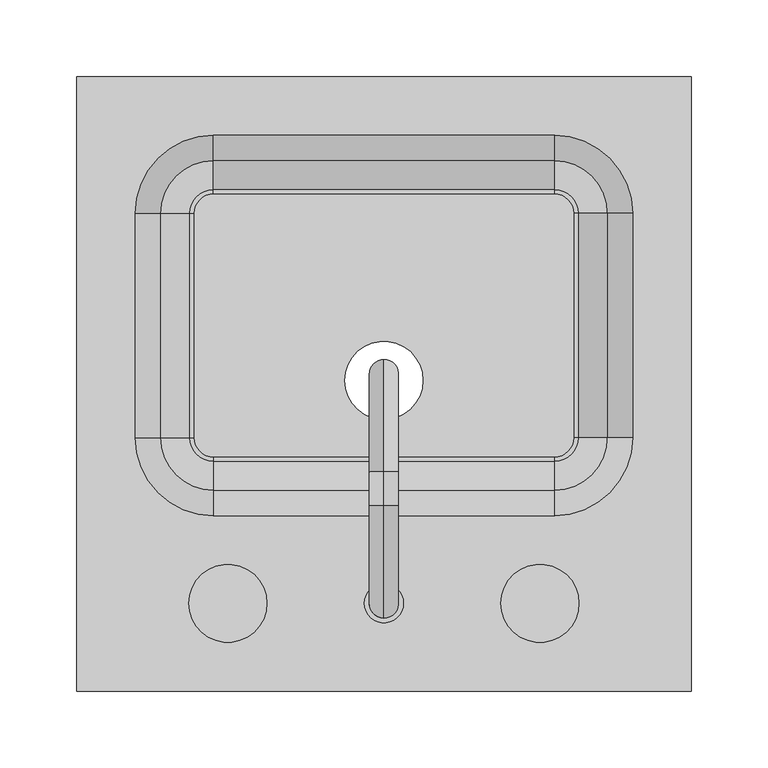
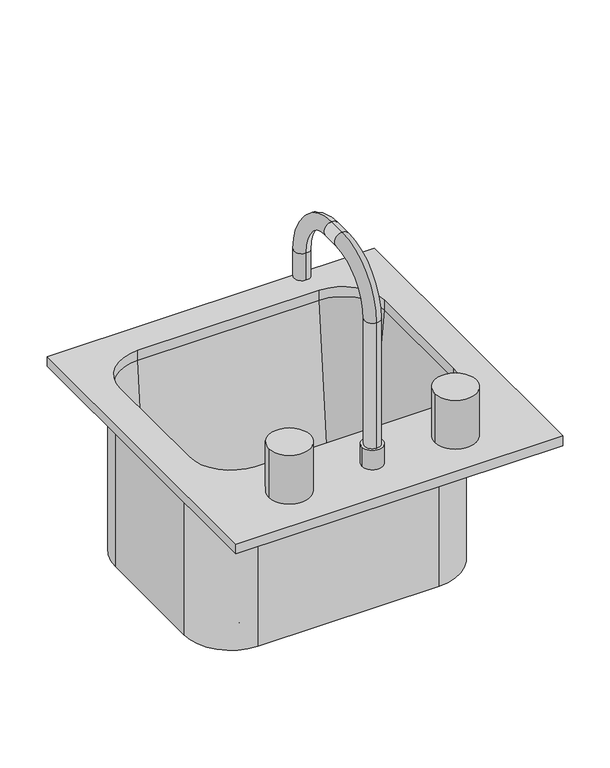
"""IFC4 building model written with IfcOpenShell, lengths in millimetres: flow terminal geometry, RF_Pias : Pia da Bancada."""

import ifcopenshell
import ifcopenshell.guid

model = None  # the IFC model being written
_history = None  # IfcOwnerHistory: only IFC2X3 demands one
_inside = {}  # id of a spatial element -> (the spatial element, [elements in it])
_under = {}  # id of a project, library or spatial element -> (it, [spatial elements below it])
_declared = {}  # id of a project -> (the project, [libraries it declares])
_typed = {}  # id of a type object -> (the type object, [elements of that type])
_made_of = {}  # id of a material, layer set ... -> (it, [elements and type objects made of it])


def new_model(schema):
    """Start an empty IFC model of exactly this schema.

    Asked for "IFC4X3", IfcOpenShell would pick the latest addendum, in which some entities
    have other attributes; the version numbers below select the first issue.
    IFC2X3 requires an IfcOwnerHistory on every rooted entity: one is made here for all.
    """
    global model, _history
    if schema == "IFC4X3":
        model = ifcopenshell.file(schema_version=(4, 3, 0, 0))
    else:
        model = ifcopenshell.file(schema=schema)
    _inside.clear()
    _under.clear()
    _declared.clear()
    _typed.clear()
    _made_of.clear()
    _history = None
    if model.schema == "IFC2X3":
        org = make("IfcOrganization", Name="unknown")
        user = make(
            "IfcPersonAndOrganization",
            ThePerson=make("IfcPerson", FamilyName="unknown"),
            TheOrganization=org,
        )
        app = make(
            "IfcApplication",
            ApplicationDeveloper=org,
            Version="unknown",
            ApplicationFullName="unknown",
            ApplicationIdentifier="unknown",
        )
        _history = make(
            "IfcOwnerHistory",
            OwningUser=user,
            OwningApplication=app,
            ChangeAction="ADDED",
            CreationDate=0,
        )
    return model


def make(cls, **values):
    """One entity of the class cls with the attributes given. An attribute that is None is left unset."""
    return model.create_entity(
        cls, **{name: value for name, value in values.items() if value is not None}
    )


def rooted(cls, **values):
    """An entity with a GlobalId (a new one), such as an element, a storey or a relation."""
    return make(cls, GlobalId=ifcopenshell.guid.new(), OwnerHistory=_history, **values)


def si_unit(unit_type, name, prefix=None):
    """IfcSIUnit, for example si_unit("LENGTHUNIT", "METRE", prefix="MILLI")."""
    return make("IfcSIUnit", UnitType=unit_type, Prefix=prefix, Name=name)


def assignment(units):
    """IfcUnitAssignment: the units of a project."""
    return None if units is None else make("IfcUnitAssignment", Units=units)


def point(xyz):
    """IfcCartesianPoint."""
    return None if xyz is None else make("IfcCartesianPoint", Coordinates=xyz)


def direction(xyz):
    """IfcDirection."""
    return None if xyz is None else make("IfcDirection", DirectionRatios=xyz)


def frame(location, z_axis=None, x_axis=None):
    """IfcAxis2Placement3D, a coordinate frame: its origin and axes. An axis left out is left unset."""
    return make(
        "IfcAxis2Placement3D",
        Location=point(location),
        Axis=direction(z_axis),
        RefDirection=direction(x_axis),
    )


def frame_2d(location, x_axis=None):
    """IfcAxis2Placement2D, a coordinate frame in the plane: its origin and x axis."""
    return make(
        "IfcAxis2Placement2D", Location=point(location), RefDirection=direction(x_axis)
    )


def origin():
    """The frame at (0, 0, 0) with its axes left unset."""
    return frame((0.0, 0.0, 0.0))


def place(relative_to, where):
    """IfcLocalPlacement: puts the frame where relative to a parent placement (None: the world)."""
    return make(
        "IfcLocalPlacement", PlacementRelTo=relative_to, RelativePlacement=where
    )


def context(
    kind, dimensions, precision=None, world=None, true_north=None, identifier=None
):
    """IfcGeometricRepresentationContext, for example the 3D "Model" context."""
    return make(
        "IfcGeometricRepresentationContext",
        ContextIdentifier=identifier,
        ContextType=kind,
        CoordinateSpaceDimension=dimensions,
        Precision=precision,
        WorldCoordinateSystem=world,
        TrueNorth=true_north,
    )


def project(units=None, contexts=None):
    """IfcProject with its units and contexts."""
    return rooted(
        "IfcProject",
        Name="project",
        RepresentationContexts=contexts,
        UnitsInContext=assignment(units),
    )


def spatial(cls, under=None, at=None, **own):
    """A site, building, storey or space (cls), placed at a placement, below another one or the project."""
    s = rooted(cls, ObjectPlacement=at, **own)
    if under is not None:
        _under.setdefault(under.id(), (under, []))[1].append(s)
    return s


def polyline(points):
    """IfcPolyline through the points."""
    return make("IfcPolyline", Points=[point(p) for p in points])


def circle_curve(where, radius):
    """IfcCircle in the frame where."""
    return make("IfcCircle", Position=where, Radius=radius)


def ellipse_curve(where, semi_axis1, semi_axis2):
    """IfcEllipse in the frame where."""
    return make(
        "IfcEllipse", Position=where, SemiAxis1=semi_axis1, SemiAxis2=semi_axis2
    )


def trimmed(basis, trim1, trim2, sense, master):
    """IfcTrimmedCurve: the piece of a basis curve between two trims."""
    return make(
        "IfcTrimmedCurve",
        BasisCurve=basis,
        Trim1=trim1,
        Trim2=trim2,
        SenseAgreement=sense,
        MasterRepresentation=master,
    )


def segment(curve, same_sense, transition):
    """IfcCompositeCurveSegment."""
    return make(
        "IfcCompositeCurveSegment",
        Transition=transition,
        SameSense=same_sense,
        ParentCurve=curve,
    )


def composite_curve(segments, self_intersect=None):
    """IfcCompositeCurve: segments joined end to end."""
    return make("IfcCompositeCurve", Segments=segments, SelfIntersect=self_intersect)


def outline(outer, holes=None, kind="AREA"):
    """IfcArbitraryClosedProfileDef: a profile drawn as a closed curve; with holes, ...WithVoids."""
    if holes is None:
        return make("IfcArbitraryClosedProfileDef", ProfileType=kind, OuterCurve=outer)
    return make(
        "IfcArbitraryProfileDefWithVoids",
        ProfileType=kind,
        OuterCurve=outer,
        InnerCurves=holes,
    )


def extrude(swept, where, along, depth):
    """IfcExtrudedAreaSolid: the profile swept, set in the frame where, extruded along a direction by depth."""
    return make(
        "IfcExtrudedAreaSolid",
        SweptArea=swept,
        Position=where,
        ExtrudedDirection=direction(along),
        Depth=depth,
    )


def shape(context_of_items, identifier, shape_type, items):
    """IfcShapeRepresentation: the items that make up one representation, for example the "Body"."""
    return make(
        "IfcShapeRepresentation",
        ContextOfItems=context_of_items,
        RepresentationIdentifier=identifier,
        RepresentationType=shape_type,
        Items=items,
    )


def source(mapping_origin, context_of_items, identifier, shape_type, items):
    """IfcRepresentationMap: a shape defined once, which mapped items show again and again."""
    return make(
        "IfcRepresentationMap",
        MappingOrigin=mapping_origin,
        MappedRepresentation=shape(context_of_items, identifier, shape_type, items),
    )


def transform(
    local_origin,
    x_axis=None,
    y_axis=None,
    z_axis=None,
    scale=None,
    scale2=None,
    scale3=None,
    uniform=True,
):
    """IfcCartesianTransformationOperator3D, or its non-uniform kind. x_axis, y_axis, z_axis: its Axis1, 2, 3."""
    if uniform:
        return make(
            "IfcCartesianTransformationOperator3D",
            Axis1=direction(x_axis),
            Axis2=direction(y_axis),
            LocalOrigin=point(local_origin),
            Scale=scale,
            Axis3=direction(z_axis),
        )
    return make(
        "IfcCartesianTransformationOperator3DnonUniform",
        Axis1=direction(x_axis),
        Axis2=direction(y_axis),
        LocalOrigin=point(local_origin),
        Scale=scale,
        Axis3=direction(z_axis),
        Scale2=scale2,
        Scale3=scale3,
    )


def mapped(mapping_source, mapping_target):
    """IfcMappedItem: shows the shape of a source again, moved by a transform."""
    return make(
        "IfcMappedItem", MappingSource=mapping_source, MappingTarget=mapping_target
    )


def made_of(thing, what):
    """Note that an element or type object is made of a material, layer set ...; save() writes the relation."""
    if what is not None:
        _made_of.setdefault(what.id(), (what, []))[1].append(thing)
    return thing


def element(
    cls,
    number,
    at=None,
    inside=None,
    cuts=None,
    type_object=None,
    material=None,
    context=None,
    identifier="Body",
    shape_type=None,
    held_by="IfcProductDefinitionShape",
    body=None,
    shapes=None,
    **own,
):
    """One element of the class cls, such as IfcWall. Its Tag is "e" and its number.

    at: its placement. inside: the storey or other place that contains it. cuts: it is an
    opening in that element (IfcRelVoidsElement). A single representation is given by context,
    identifier, shape_type and body (its items); several are given by shapes. held_by: the class
    of the entity that holds the representations. save() writes the other relations.
    """
    e = rooted(cls, Tag="e%d" % number, ObjectPlacement=at, **own)
    if body is not None:
        shapes = [shape(context, identifier, shape_type, body)]
    if shapes is not None:
        e.Representation = make(held_by, Representations=shapes)
    if inside is not None:
        _inside.setdefault(inside.id(), (inside, []))[1].append(e)
    if cuts is not None:
        rooted(
            "IfcRelVoidsElement", RelatingBuildingElement=cuts, RelatedOpeningElement=e
        )
    if type_object is not None:
        _typed.setdefault(type_object.id(), (type_object, []))[1].append(e)
    return made_of(e, material)


def aggregate(whole, parts):
    """IfcRelAggregates: a whole, such as a stair, and the parts it consists of."""
    return rooted("IfcRelAggregates", RelatingObject=whole, RelatedObjects=parts)


def save(model, path):
    """Write the relations noted so far, then the file.

    IfcRelAggregates (storeys below a building ...), IfcRelContainedInSpatialStructure (elements
    in a storey), IfcRelDefinesByType, IfcRelAssociatesMaterial and IfcRelDeclares: one each for
    every whole, place, type object, material and project.
    """
    for whole, parts in _under.values():
        aggregate(whole, parts)
    for where, things in _inside.values():
        rooted(
            "IfcRelContainedInSpatialStructure",
            RelatedElements=things,
            RelatingStructure=where,
        )
    for kind, things in _typed.values():
        rooted("IfcRelDefinesByType", RelatedObjects=things, RelatingType=kind)
    for what, things in _made_of.values():
        rooted("IfcRelAssociatesMaterial", RelatedObjects=things, RelatingMaterial=what)
    for by, libraries in _declared.values():
        rooted("IfcRelDeclares", RelatingContext=by, RelatedDefinitions=libraries)
    model.write(path)


def plane_surface(at):
    """IfcPlane: the flat surface through the origin of the frame at, square to its z axis."""
    return make("IfcPlane", Position=at)


def cylinder_surface(at, radius):
    """IfcCylindricalSurface: all points at the distance radius from the z axis of the frame at."""
    return make("IfcCylindricalSurface", Position=at, Radius=radius)


def revolved_surface(curve, axis_point, axis_direction):
    """IfcSurfaceOfRevolution: the curve turned about the line through axis_point along axis_direction."""
    return make(
        "IfcSurfaceOfRevolution",
        SweptCurve=make("IfcArbitraryOpenProfileDef", ProfileType="CURVE", Curve=curve),
        AxisPosition=make("IfcAxis1Placement", Location=point(axis_point), Axis=direction(axis_direction)),
    )


def advanced_brep(points, edges, surfaces, faces):
    """IfcAdvancedBrep: a solid bounded by faces that lie on surfaces and meet in shared edges.

    An edge is (start, end): straight between two places in points (the first is 0);
    or (start, end, curve); or (start, end, curve, False) where it runs against its curve.
    A face is (place in surfaces, loops), or (place, loops, False) where it looks against
    its surface's normal. A loop lists edges by number (the first is 1), with a minus sign
    where the edge is run from its end to its start. The first loop is the outer one.
    """
    corners = [point(p) for p in points]
    vertices = [make("IfcVertexPoint", VertexGeometry=c) for c in corners]
    made = []
    for start, end, *more in edges:
        made.append(
            make(
                "IfcEdgeCurve",
                EdgeStart=vertices[start],
                EdgeEnd=vertices[end],
                EdgeGeometry=more[0] if more else make("IfcPolyline", Points=[corners[start], corners[end]]),
                SameSense=more[1] if len(more) > 1 else True,
            )
        )
    hull = []
    for where, loops, *sense in faces:
        bounds = []
        for j, loop in enumerate(loops):
            ring = [make("IfcOrientedEdge", EdgeElement=made[abs(k) - 1], Orientation=k > 0) for k in loop]
            bounds.append(
                make(
                    "IfcFaceOuterBound" if j == 0 else "IfcFaceBound",
                    Bound=make("IfcEdgeLoop", EdgeList=ring),
                    Orientation=True,
                )
            )
        hull.append(make("IfcAdvancedFace", Bounds=bounds, FaceSurface=surfaces[where], SameSense=sense[0] if sense else True))
    return make("IfcAdvancedBrep", Outer=make("IfcClosedShell", CfsFaces=hull))


def flow_terminal_c6e042c4(model_context):
    return source(origin(), model_context, "Body", "SolidModel", [
        advanced_brep(
        [(215.6892406, -202.3454011, 927.1), (215.6892406, 197.6545989, 927.1), (-184.3107594, 197.6545989, 927.1), (-184.3107594, -202.3454011, 927.1), (126.7892406, -88.0454011, 927.1), (-95.4107594, -88.0454011, 927.1), (-146.2107594, -37.2454011, 927.1), (-146.2107594, 108.7545989, 927.1), (-95.4107594, 159.5545989, 927.1), (126.7892406, 159.5545989, 927.1), (177.5892406, 108.7545989, 927.1), (177.5892406, -37.2454011, 927.1), (215.6892406, -202.3454011, 914.4), (-184.3107594, -202.3454011, 914.4), (-184.3107594, 197.6545989, 914.4), (215.6892406, 197.6545989, 914.4), (183.9392406, -37.2454011, 914.4), (183.9392406, 108.7545989, 914.4), (126.7892406, 165.9045989, 914.4), (-95.4107594, 165.9045989, 914.4), (-152.5607594, 108.7545989, 914.4), (-152.5607594, -37.2454011, 914.4), (-95.4107594, -94.3954011, 914.4), (126.7892406, -94.3954011, 914.4), (177.5892406, -37.2454011, 914.4), (126.7892406, -88.0454011, 914.4), (177.5892406, 108.7545989, 914.4), (126.7892406, 159.5545989, 914.4), (-95.4107594, 159.5545989, 914.4), (-146.2107594, 108.7545989, 914.4), (-146.2107594, -37.2454011, 914.4), (-95.4107594, -88.0454011, 914.4), (183.9392406, -37.2454011, 698.5), (126.7892406, -94.3954011, 698.5), (126.7892406, -49.9454011, 698.5), (139.4892406, -37.2454011, 698.5), (126.7892406, -49.9454011, 708.025), (139.4892406, -37.2454011, 708.025), (126.7892406, -52.5338193, 708.025), (142.0776588, -37.2454011, 708.025), (126.7892406, -71.5113283, 725.4146831), (161.0551678, -37.2454011, 725.4146831), (183.9392406, 108.7545989, 698.5), (139.4892406, 108.7545989, 698.5), (139.4892406, 108.7545989, 708.025), (142.0776588, 108.7545989, 708.025), (161.0551678, 108.7545989, 725.4146831), (126.7892406, 165.9045989, 698.5), (126.7892406, 121.4545989, 698.5), (126.7892406, 121.4545989, 708.025), (126.7892406, 124.0430171, 708.025), (126.7892406, 143.0205261, 725.4146831), (-95.4107594, 165.9045989, 698.5), (-95.4107594, 121.4545989, 698.5), (-95.4107594, 121.4545989, 708.025), (-95.4107594, 124.0430171, 708.025), (-95.4107594, 143.0205261, 725.4146831), (-152.5607594, 108.7545989, 698.5), (-108.1107594, 108.7545989, 698.5), (-108.1107594, 108.7545989, 708.025), (-110.6991776, 108.7545989, 708.025), (-129.6766866, 108.7545989, 725.4146831), (-152.5607594, -37.2454011, 698.5), (-108.1107594, -37.2454011, 698.5), (-108.1107594, -37.2454011, 708.025), (-110.6991776, -37.2454011, 708.025), (-129.6766866, -37.2454011, 725.4146831), (-95.4107594, -94.3954011, 698.5), (-95.4107594, -49.9454011, 698.5), (-95.4107594, -49.9454011, 708.025), (-95.4107594, -52.5338193, 708.025), (-95.4107594, -71.5113283, 725.4146831)],
        [
            (0, 1),
            (1, 2),
            (2, 3),
            (3, 0),
            (4, 5),
            (5, 6, circle_curve(frame((-95.4107594, -37.2454011, 927.1), z_axis=(0.0, 0.0, -1.0), x_axis=(1.0, 0.0, 0.0)), 50.8)),
            (6, 7),
            (7, 8, circle_curve(frame((-95.4107594, 108.7545989, 927.1), z_axis=(0.0, 0.0, -1.0), x_axis=(1.0, 0.0, 0.0)), 50.8)),
            (8, 9),
            (9, 10, circle_curve(frame((126.7892406, 108.7545989, 927.1), z_axis=(0.0, 0.0, -1.0), x_axis=(1.0, 0.0, 0.0)), 50.8)),
            (10, 11),
            (11, 4, circle_curve(frame((126.7892406, -37.2454011, 927.1), z_axis=(0.0, 0.0, -1.0), x_axis=(1.0, 0.0, 0.0)), 50.8)),
            (12, 13),
            (13, 14),
            (14, 15),
            (15, 12),
            (16, 17),
            (17, 18, circle_curve(frame((126.7892406, 108.7545989, 914.4), z_axis=(0.0, 0.0, 1.0), x_axis=(1.0, 0.0, 0.0)), 57.15)),
            (18, 19),
            (19, 20, circle_curve(frame((-95.4107594, 108.7545989, 914.4), z_axis=(0.0, 0.0, 1.0), x_axis=(0.0, 1.0, 0.0)), 57.15)),
            (20, 21),
            (21, 22, circle_curve(frame((-95.4107594, -37.2454011, 914.4), z_axis=(0.0, 0.0, 1.0), x_axis=(-1.0, 0.0, 0.0)), 57.15)),
            (22, 23),
            (23, 16, circle_curve(frame((126.7892406, -37.2454011, 914.4), z_axis=(0.0, 0.0, 1.0), x_axis=(0.0, -1.0, 0.0)), 57.15)),
            (3, 13),
            (12, 0),
            (2, 14),
            (1, 15),
            (11, 24),
            (24, 25, circle_curve(frame((126.7892406, -37.2454011, 914.4), z_axis=(0.0, 0.0, -1.0), x_axis=(1.0, 0.0, 0.0)), 50.8)),
            (25, 4),
            (10, 26),
            (26, 24),
            (9, 27),
            (27, 26, circle_curve(frame((126.7892406, 108.7545989, 914.4), z_axis=(0.0, 0.0, -1.0), x_axis=(1.0, 0.0, 0.0)), 50.8)),
            (8, 28),
            (28, 27),
            (7, 29),
            (29, 28, circle_curve(frame((-95.4107594, 108.7545989, 914.4), z_axis=(0.0, 0.0, -1.0), x_axis=(1.0, 0.0, 0.0)), 50.8)),
            (6, 30),
            (30, 29),
            (5, 31),
            (31, 30, circle_curve(frame((-95.4107594, -37.2454011, 914.4), z_axis=(0.0, 0.0, -1.0), x_axis=(1.0, 0.0, 0.0)), 50.8)),
            (25, 31),
            (32, 16),
            (23, 33),
            (33, 32, circle_curve(frame((126.7892406, -37.2454011, 698.5), z_axis=(0.0, 0.0, 1.0), x_axis=(0.0, -1.0, 0.0)), 57.15)),
            (33, 34),
            (34, 35, circle_curve(frame((126.7892406, -37.2454011, 698.5), z_axis=(0.0, 0.0, 1.0), x_axis=(0.0, -1.0, 0.0)), 12.7)),
            (35, 32),
            (34, 36),
            (36, 37, circle_curve(frame((126.7892406, -37.2454011, 708.025), z_axis=(0.0, 0.0, 1.0), x_axis=(0.0, -1.0, 0.0)), 12.7)),
            (37, 35),
            (36, 38),
            (38, 39, circle_curve(frame((126.7892406, -37.2454011, 708.025), z_axis=(0.0, 0.0, 1.0), x_axis=(0.0, -1.0, 0.0)), 15.2884182)),
            (39, 37),
            (38, 40, circle_curve(frame((126.7892406, -52.5338193, 727.075), z_axis=(-1.0, 0.0, 0.0), x_axis=(0.0, -1.0, 0.0)), 19.05)),
            (40, 41, circle_curve(frame((126.7892406, -37.2454011, 725.4146831), z_axis=(0.0, 0.0, 1.0), x_axis=(0.0, -1.0, 0.0)), 34.2659272)),
            (41, 39, circle_curve(frame((142.0776588, -37.2454011, 727.075), z_axis=(0.0, 1.0, 0.0), x_axis=(1.0, 0.0, 0.0)), 19.05)),
            (40, 25),
            (24, 41),
            (32, 42),
            (42, 17),
            (35, 43),
            (43, 42),
            (37, 44),
            (44, 43),
            (39, 45),
            (45, 44),
            (41, 46),
            (46, 45, circle_curve(frame((142.0776588, 108.7545989, 727.075), z_axis=(0.0, 1.0, 0.0), x_axis=(1.0, 0.0, 0.0)), 19.05)),
            (26, 46),
            (42, 47, circle_curve(frame((126.7892406, 108.7545989, 698.5), z_axis=(0.0, 0.0, 1.0), x_axis=(1.0, 0.0, 0.0)), 57.15)),
            (47, 18),
            (43, 48, circle_curve(frame((126.7892406, 108.7545989, 698.5), z_axis=(0.0, 0.0, 1.0), x_axis=(1.0, 0.0, 0.0)), 12.7)),
            (48, 47),
            (44, 49, circle_curve(frame((126.7892406, 108.7545989, 708.025), z_axis=(0.0, 0.0, 1.0), x_axis=(1.0, 0.0, 0.0)), 12.7)),
            (49, 48),
            (45, 50, circle_curve(frame((126.7892406, 108.7545989, 708.025), z_axis=(0.0, 0.0, 1.0), x_axis=(1.0, 0.0, 0.0)), 15.2884182)),
            (50, 49),
            (46, 51, circle_curve(frame((126.7892406, 108.7545989, 725.4146831), z_axis=(0.0, 0.0, 1.0), x_axis=(1.0, 0.0, 0.0)), 34.2659272)),
            (51, 50, circle_curve(frame((126.7892406, 124.0430171, 727.075), z_axis=(-1.0, 0.0, 0.0), x_axis=(0.0, 1.0, 0.0)), 19.05)),
            (27, 51),
            (47, 52),
            (52, 19),
            (48, 53),
            (53, 52),
            (49, 54),
            (54, 53),
            (50, 55),
            (55, 54),
            (51, 56),
            (56, 55, circle_curve(frame((-95.4107594, 124.0430171, 727.075), z_axis=(-1.0, 0.0, 0.0), x_axis=(0.0, 1.0, 0.0)), 19.05)),
            (28, 56),
            (52, 57, circle_curve(frame((-95.4107594, 108.7545989, 698.5), z_axis=(0.0, 0.0, 1.0), x_axis=(0.0, 1.0, 0.0)), 57.15)),
            (57, 20),
            (53, 58, circle_curve(frame((-95.4107594, 108.7545989, 698.5), z_axis=(0.0, 0.0, 1.0), x_axis=(0.0, 1.0, 0.0)), 12.7)),
            (58, 57),
            (54, 59, circle_curve(frame((-95.4107594, 108.7545989, 708.025), z_axis=(0.0, 0.0, 1.0), x_axis=(0.0, 1.0, 0.0)), 12.7)),
            (59, 58),
            (55, 60, circle_curve(frame((-95.4107594, 108.7545989, 708.025), z_axis=(0.0, 0.0, 1.0), x_axis=(0.0, 1.0, 0.0)), 15.2884182)),
            (60, 59),
            (56, 61, circle_curve(frame((-95.4107594, 108.7545989, 725.4146831), z_axis=(0.0, 0.0, 1.0), x_axis=(0.0, 1.0, 0.0)), 34.2659272)),
            (61, 60, circle_curve(frame((-110.6991776, 108.7545989, 727.075), z_axis=(0.0, -1.0, 0.0), x_axis=(-1.0, 0.0, 0.0)), 19.05)),
            (29, 61),
            (57, 62),
            (62, 21),
            (58, 63),
            (63, 62),
            (59, 64),
            (64, 63),
            (60, 65),
            (65, 64),
            (61, 66),
            (66, 65, circle_curve(frame((-110.6991776, -37.2454011, 727.075), z_axis=(0.0, -1.0, 0.0), x_axis=(-1.0, 0.0, 0.0)), 19.05)),
            (30, 66),
            (62, 67, circle_curve(frame((-95.4107594, -37.2454011, 698.5), z_axis=(0.0, 0.0, 1.0), x_axis=(-1.0, 0.0, 0.0)), 57.15)),
            (67, 22),
            (63, 68, circle_curve(frame((-95.4107594, -37.2454011, 698.5), z_axis=(0.0, 0.0, 1.0), x_axis=(-1.0, 0.0, 0.0)), 12.7)),
            (68, 67),
            (64, 69, circle_curve(frame((-95.4107594, -37.2454011, 708.025), z_axis=(0.0, 0.0, 1.0), x_axis=(-1.0, 0.0, 0.0)), 12.7)),
            (69, 68),
            (65, 70, circle_curve(frame((-95.4107594, -37.2454011, 708.025), z_axis=(0.0, 0.0, 1.0), x_axis=(-1.0, 0.0, 0.0)), 15.2884182)),
            (70, 69),
            (66, 71, circle_curve(frame((-95.4107594, -37.2454011, 725.4146831), z_axis=(0.0, 0.0, 1.0), x_axis=(-1.0, 0.0, 0.0)), 34.2659272)),
            (71, 70, circle_curve(frame((-95.4107594, -52.5338193, 727.075), z_axis=(1.0, 0.0, 0.0), x_axis=(0.0, -1.0, 0.0)), 19.05)),
            (31, 71),
            (67, 33),
            (68, 34),
            (69, 36),
            (70, 38),
            (71, 40),
        ],
        [
            plane_surface(frame((-184.3107594, -202.3454011, 927.1), z_axis=(0.0, 0.0, 1.0), x_axis=(-1.0, 0.0, 0.0))),
            plane_surface(frame((-184.3107594, -202.3454011, 914.4), z_axis=(0.0, 0.0, -1.0), x_axis=(1.0, 0.0, 0.0))),
            plane_surface(frame((215.6892406, -202.3454011, 927.1), z_axis=(0.0, -1.0, 0.0), x_axis=(0.0, 0.0, -1.0))),
            plane_surface(frame((-184.3107594, -202.3454011, 927.1), z_axis=(-1.0, 0.0, 0.0), x_axis=(0.0, 0.0, -1.0))),
            plane_surface(frame((-184.3107594, 197.6545989, 927.1), z_axis=(0.0, 1.0, 0.0), x_axis=(0.0, 0.0, -1.0))),
            plane_surface(frame((215.6892406, 197.6545989, 927.1), z_axis=(1.0, 0.0, 0.0), x_axis=(0.0, 0.0, -1.0))),
            revolved_surface(polyline([(177.58924059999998, -37.2454011, 914.4), (177.58924059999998, -37.2454011, 927.1)]), (126.7892406, -37.2454011, 0.0), (0.0, 0.0, -1.0)),
            plane_surface(frame((177.5892406, -37.2454011, 927.1), z_axis=(-1.0, 0.0, 0.0), x_axis=(0.0, 0.0, -1.0))),
            revolved_surface(polyline([(177.58924059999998, 108.7545989, 914.4), (177.58924059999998, 108.7545989, 927.1)]), (126.7892406, 108.7545989, 0.0), (0.0, 0.0, -1.0)),
            plane_surface(frame((126.7892406, 159.5545989, 927.1), z_axis=(0.0, -1.0, 0.0), x_axis=(0.0, 0.0, -1.0))),
            revolved_surface(polyline([(-44.610759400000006, 108.7545989, 914.4), (-44.610759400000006, 108.7545989, 927.1)]), (-95.4107594, 108.7545989, 0.0), (0.0, 0.0, -1.0)),
            plane_surface(frame((-146.2107594, 108.7545989, 927.1), z_axis=(1.0, 0.0, 0.0), x_axis=(0.0, 0.0, -1.0))),
            revolved_surface(polyline([(-44.610759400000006, -37.2454011, 914.4), (-44.610759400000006, -37.2454011, 927.1)]), (-95.4107594, -37.2454011, 0.0), (0.0, 0.0, -1.0)),
            plane_surface(frame((-95.4107594, -88.0454011, 927.1), z_axis=(0.0, 1.0, 0.0), x_axis=(0.0, 0.0, -1.0))),
            cylinder_surface(frame((126.7892406, -37.2454011, 0.0), z_axis=(0.0, 0.0, -1.0), x_axis=(0.0, -1.0, 0.0)), 57.15),
            plane_surface(frame((126.7892406, -37.2454011, 698.5), z_axis=(0.0, 0.0, -1.0), x_axis=(0.0, -1.0, 0.0))),
            revolved_surface(polyline([(126.7892406, -49.9454011, 698.5), (126.7892406, -49.9454011, 708.025)]), (126.7892406, -37.2454011, 0.0), (0.0, 0.0, -1.0)),
            plane_surface(frame((126.7892406, -37.2454011, 708.025), z_axis=(0.0, 0.0, 1.0), x_axis=(0.0, -1.0, 0.0))),
            revolved_surface(trimmed(ellipse_curve(frame((126.7892406, -52.5338193, 727.075), z_axis=(-1.0, 0.0, 0.0), x_axis=(0.0, -1.0, 0.0)), 19.05, 19.05), [point((126.7892406, -52.5338193, 708.025))], [point((126.7892406, -71.5113283, 725.4146831))], True, "CARTESIAN"), (126.7892406, -37.2454011, 0.0), (0.0, 0.0, -1.0)),
            revolved_surface(polyline([(126.7892406, -71.5113283, 725.4146831), (126.7892406, -88.0454011, 914.4)]), (126.7892406, -37.2454011, 0.0), (0.0, 0.0, -1.0)),
            plane_surface(frame((183.9392406, -37.2454011, 914.4), z_axis=(1.0, 0.0, 0.0), x_axis=(0.0, 1.0, 0.0))),
            plane_surface(frame((183.9392406, -37.2454011, 698.5), z_axis=(0.0, 0.0, -1.0), x_axis=(0.0, 1.0, 0.0))),
            plane_surface(frame((139.4892406, -37.2454011, 698.5), z_axis=(-1.0, 0.0, 0.0), x_axis=(0.0, 1.0, 0.0))),
            plane_surface(frame((139.4892406, -37.2454011, 708.025), z_axis=(0.0, 0.0, 1.0), x_axis=(0.0, 1.0, 0.0))),
            revolved_surface(polyline([(161.1276588, 108.75459889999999, 727.075), (161.1276588, -37.2454011, 727.075)]), (142.0776588, -37.2454011, 727.075), (0.0, 1.0, 0.0)),
            plane_surface(frame((161.0551678, -37.2454011, 725.4146831), z_axis=(-0.9961946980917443, 0.0, 0.08715574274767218), x_axis=(0.0, 1.0, 0.0))),
            cylinder_surface(frame((126.7892406, 108.7545989, 0.0), z_axis=(0.0, 0.0, -1.0), x_axis=(1.0, 0.0, 0.0)), 57.15),
            plane_surface(frame((126.7892406, 108.7545989, 698.5), z_axis=(0.0, 0.0, -1.0), x_axis=(1.0, 0.0, 0.0))),
            revolved_surface(polyline([(139.4892406, 108.7545989, 698.5), (139.4892406, 108.7545989, 708.025)]), (126.7892406, 108.7545989, 0.0), (0.0, 0.0, -1.0)),
            plane_surface(frame((126.7892406, 108.7545989, 708.025), z_axis=(0.0, 0.0, 1.0), x_axis=(1.0, 0.0, 0.0))),
            revolved_surface(trimmed(ellipse_curve(frame((142.0776588, 108.7545989, 727.075), z_axis=(0.0, -1.0, 0.0), x_axis=(1.0, 0.0, 0.0)), 19.05, 19.05), [point((142.0776588, 108.7545989, 708.025))], [point((161.0551678, 108.7545989, 725.4146831))], True, "CARTESIAN"), (126.7892406, 108.7545989, 0.0), (0.0, 0.0, -1.0)),
            revolved_surface(polyline([(161.0551678, 108.7545989, 725.4146831), (177.5892406, 108.7545989, 914.4)]), (126.7892406, 108.7545989, 0.0), (0.0, 0.0, -1.0)),
            plane_surface(frame((126.7892406, 165.9045989, 914.4), z_axis=(0.0, 1.0, 0.0), x_axis=(-1.0, 0.0, 0.0))),
            plane_surface(frame((126.7892406, 165.9045989, 698.5), z_axis=(0.0, 0.0, -1.0), x_axis=(-1.0, 0.0, 0.0))),
            plane_surface(frame((126.7892406, 121.4545989, 698.5), z_axis=(0.0, -1.0, 0.0), x_axis=(-1.0, 0.0, 0.0))),
            plane_surface(frame((126.7892406, 121.4545989, 708.025), z_axis=(0.0, 0.0, 1.0), x_axis=(-1.0, 0.0, 0.0))),
            revolved_surface(polyline([(-95.41075939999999, 143.0930171, 727.075), (126.7892406, 143.0930171, 727.075)]), (126.7892406, 124.0430171, 727.075), (-1.0, 0.0, 0.0)),
            plane_surface(frame((126.7892406, 143.0205261, 725.4146831), z_axis=(0.0, -0.9961946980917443, 0.08715574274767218), x_axis=(-1.0, 0.0, 0.0))),
            cylinder_surface(frame((-95.4107594, 108.7545989, 0.0), z_axis=(0.0, 0.0, -1.0), x_axis=(0.0, 1.0, 0.0)), 57.15),
            plane_surface(frame((-95.4107594, 108.7545989, 698.5), z_axis=(0.0, 0.0, -1.0), x_axis=(0.0, 1.0, 0.0))),
            revolved_surface(polyline([(-95.4107594, 121.45459890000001, 698.5), (-95.4107594, 121.45459890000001, 708.025)]), (-95.4107594, 108.7545989, 0.0), (0.0, 0.0, -1.0)),
            plane_surface(frame((-95.4107594, 108.7545989, 708.025), z_axis=(0.0, 0.0, 1.0), x_axis=(0.0, 1.0, 0.0))),
            revolved_surface(trimmed(ellipse_curve(frame((-95.4107594, 124.0430171, 727.075), z_axis=(1.0, 0.0, 0.0), x_axis=(0.0, 1.0, 0.0)), 19.05, 19.05), [point((-95.4107594, 124.0430171, 708.025))], [point((-95.4107594, 143.0205261, 725.4146831))], True, "CARTESIAN"), (-95.4107594, 108.7545989, 0.0), (0.0, 0.0, -1.0)),
            revolved_surface(polyline([(-95.4107594, 143.0205261, 725.4146831), (-95.4107594, 159.5545989, 914.4)]), (-95.4107594, 108.7545989, 0.0), (0.0, 0.0, -1.0)),
            plane_surface(frame((-152.5607594, 108.7545989, 914.4), z_axis=(-1.0, 0.0, 0.0), x_axis=(0.0, -1.0, 0.0))),
            plane_surface(frame((-152.5607594, 108.7545989, 698.5), z_axis=(0.0, 0.0, -1.0), x_axis=(0.0, -1.0, 0.0))),
            plane_surface(frame((-108.1107594, 108.7545989, 698.5), z_axis=(1.0, 0.0, 0.0), x_axis=(0.0, -1.0, 0.0))),
            plane_surface(frame((-108.1107594, 108.7545989, 708.025), z_axis=(0.0, 0.0, 1.0), x_axis=(0.0, -1.0, 0.0))),
            revolved_surface(polyline([(-129.7491776, -37.245401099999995, 727.075), (-129.7491776, 108.7545989, 727.075)]), (-110.6991776, 108.7545989, 727.075), (0.0, -1.0, 0.0)),
            plane_surface(frame((-129.6766866, 108.7545989, 725.4146831), z_axis=(0.9961946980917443, 0.0, 0.08715574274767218), x_axis=(0.0, -1.0, 0.0))),
            cylinder_surface(frame((-95.4107594, -37.2454011, 0.0), z_axis=(0.0, 0.0, -1.0), x_axis=(-1.0, 0.0, 0.0)), 57.15),
            plane_surface(frame((-95.4107594, -37.2454011, 698.5), z_axis=(0.0, 0.0, -1.0), x_axis=(-1.0, 0.0, 0.0))),
            revolved_surface(polyline([(-108.1107594, -37.2454011, 698.5), (-108.1107594, -37.2454011, 708.025)]), (-95.4107594, -37.2454011, 0.0), (0.0, 0.0, -1.0)),
            plane_surface(frame((-95.4107594, -37.2454011, 708.025), z_axis=(0.0, 0.0, 1.0), x_axis=(-1.0, 0.0, 0.0))),
            revolved_surface(trimmed(ellipse_curve(frame((-110.6991776, -37.2454011, 727.075), z_axis=(0.0, 1.0, 0.0), x_axis=(-1.0, 0.0, 0.0)), 19.05, 19.05), [point((-110.6991776, -37.2454011, 708.025))], [point((-129.6766866, -37.2454011, 725.4146831))], True, "CARTESIAN"), (-95.4107594, -37.2454011, 0.0), (0.0, 0.0, -1.0)),
            revolved_surface(polyline([(-129.6766866, -37.2454011, 725.4146831), (-146.2107594, -37.2454011, 914.4)]), (-95.4107594, -37.2454011, 0.0), (0.0, 0.0, -1.0)),
            plane_surface(frame((-95.4107594, -94.3954011, 914.4), z_axis=(0.0, -1.0, 0.0), x_axis=(1.0, 0.0, 0.0))),
            plane_surface(frame((-95.4107594, -94.3954011, 698.5), z_axis=(0.0, 0.0, -1.0), x_axis=(1.0, 0.0, 0.0))),
            plane_surface(frame((-95.4107594, -49.9454011, 698.5), z_axis=(0.0, 1.0, 0.0), x_axis=(1.0, 0.0, 0.0))),
            plane_surface(frame((-95.4107594, -49.9454011, 708.025), z_axis=(0.0, 0.0, 1.0), x_axis=(1.0, 0.0, 0.0))),
            revolved_surface(polyline([(126.78924059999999, -71.5838193, 727.075), (-95.4107594, -71.5838193, 727.075)]), (-95.4107594, -52.5338193, 727.075), (1.0, 0.0, 0.0)),
            plane_surface(frame((-95.4107594, -71.5113283, 725.4146831), z_axis=(0.0, 0.9961946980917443, 0.08715574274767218), x_axis=(1.0, 0.0, 0.0))),
        ],
        [
            (0, [[1, 2, 3, 4], [5, 6, 7, 8, 9, 10, 11, 12]]),
            (1, [[13, 14, 15, 16], [17, 18, 19, 20, 21, 22, 23, 24]]),
            (2, [[25, -13, 26, -4]]),
            (3, [[27, -14, -25, -3]]),
            (4, [[28, -15, -27, -2]]),
            (5, [[-26, -16, -28, -1]]),
            (6, [[29, 30, 31, -12]]),
            (7, [[32, 33, -29, -11]]),
            (8, [[34, 35, -32, -10]]),
            (9, [[36, 37, -34, -9]]),
            (10, [[38, 39, -36, -8]]),
            (11, [[40, 41, -38, -7]]),
            (12, [[42, 43, -40, -6]]),
            (13, [[-31, 44, -42, -5]]),
            (14, [[45, -24, 46, 47]]),
            (15, [[48, 49, 50, -47]]),
            (16, [[51, 52, 53, -49]]),
            (17, [[54, 55, 56, -52]]),
            (18, [[57, 58, 59, -55]]),
            (19, [[60, -30, 61, -58]]),
            (20, [[62, 63, -17, -45]]),
            (21, [[64, 65, -62, -50]]),
            (22, [[66, 67, -64, -53]]),
            (23, [[68, 69, -66, -56]]),
            (24, [[70, 71, -68, -59]]),
            (25, [[-33, 72, -70, -61]]),
            (26, [[73, 74, -18, -63]]),
            (27, [[75, 76, -73, -65]]),
            (28, [[77, 78, -75, -67]]),
            (29, [[79, 80, -77, -69]]),
            (30, [[81, 82, -79, -71]]),
            (31, [[-35, 83, -81, -72]]),
            (32, [[84, 85, -19, -74]]),
            (33, [[86, 87, -84, -76]]),
            (34, [[88, 89, -86, -78]]),
            (35, [[90, 91, -88, -80]]),
            (36, [[92, 93, -90, -82]]),
            (37, [[-37, 94, -92, -83]]),
            (38, [[95, 96, -20, -85]]),
            (39, [[97, 98, -95, -87]]),
            (40, [[99, 100, -97, -89]]),
            (41, [[101, 102, -99, -91]]),
            (42, [[103, 104, -101, -93]]),
            (43, [[-39, 105, -103, -94]]),
            (44, [[106, 107, -21, -96]]),
            (45, [[108, 109, -106, -98]]),
            (46, [[110, 111, -108, -100]]),
            (47, [[112, 113, -110, -102]]),
            (48, [[114, 115, -112, -104]]),
            (49, [[-41, 116, -114, -105]]),
            (50, [[117, 118, -22, -107]]),
            (51, [[119, 120, -117, -109]]),
            (52, [[121, 122, -119, -111]]),
            (53, [[123, 124, -121, -113]]),
            (54, [[125, 126, -123, -115]]),
            (55, [[-43, 127, -125, -116]]),
            (56, [[-23, -118, 128, -46]]),
            (57, [[-128, -120, 129, -48]]),
            (58, [[-129, -122, 130, -51]]),
            (59, [[-130, -124, 131, -54]]),
            (60, [[-131, -126, 132, -57]]),
            (61, [[-132, -127, -44, -60]]),
        ],
    ),
        advanced_brep(
        [(2.9892406, -145.1954011, 927.1), (28.3892406, -145.1954011, 927.1), (15.6892406, -154.7204011, 1114.425), (15.6892406, -154.7204011, 952.5), (15.6892406, -135.6704011, 952.5), (15.6892406, -135.6704011, 1114.425), (15.6892406, -81.6954011, 1168.4), (15.6892406, -81.6954011, 1187.45), (15.6892406, -59.4704011, 1168.4), (15.6892406, -59.4704011, 1187.45), (15.6892406, -5.4954011, 1114.425), (15.6892406, 13.5545989, 1114.425), (15.6892406, 13.5545989, 1079.5), (15.6892406, -5.4954011, 1079.5), (2.9892406, -145.1954011, 952.5), (28.3892406, -145.1954011, 952.5)],
        [
            (0, 1, circle_curve(frame((15.6892406, -145.1954011, 927.1), z_axis=(0.0, 0.0, -1.0), x_axis=(1.0, 0.0, 0.0)), 12.7)),
            (1, 0, circle_curve(frame((15.6892406, -145.1954011, 927.1), z_axis=(0.0, 0.0, -1.0), x_axis=(1.0, 0.0, 0.0)), 12.7)),
            (2, 3),
            (3, 4, circle_curve(frame((15.6892406, -145.1954011, 952.5), z_axis=(0.0, 0.0, 1.0), x_axis=(0.0, 1.0, 0.0)), 9.525)),
            (4, 5),
            (5, 2, circle_curve(frame((15.6892406, -145.1954011, 1114.425), z_axis=(0.0, 0.0, -1.0), x_axis=(0.0, 1.0, 0.0)), 9.525)),
            (4, 3, circle_curve(frame((15.6892406, -145.1954011, 952.5), z_axis=(0.0, 0.0, 1.0), x_axis=(0.0, 1.0, 0.0)), 9.525)),
            (2, 5, circle_curve(frame((15.6892406, -145.1954011, 1114.425), z_axis=(0.0, 0.0, -1.0), x_axis=(0.0, 1.0, 0.0)), 9.525)),
            (5, 6, circle_curve(frame((15.6892406, -81.6954011, 1114.425), z_axis=(-1.0, 0.0, 0.0), x_axis=(0.0, -1.0, 0.0)), 53.975)),
            (6, 7, circle_curve(frame((15.6892406, -81.6954011, 1177.925), z_axis=(0.0, -1.0, 0.0), x_axis=(0.0, 0.0, -1.0)), 9.525)),
            (7, 2, circle_curve(frame((15.6892406, -81.6954011, 1114.425), z_axis=(1.0, 0.0, 0.0), x_axis=(0.0, -1.0, 0.0)), 73.025)),
            (7, 6, circle_curve(frame((15.6892406, -81.6954011, 1177.925), z_axis=(0.0, -1.0, 0.0), x_axis=(0.0, 0.0, -1.0)), 9.525)),
            (6, 8),
            (8, 9, circle_curve(frame((15.6892406, -59.4704011, 1177.925), z_axis=(0.0, -1.0, 0.0), x_axis=(0.0, 0.0, -1.0)), 9.525)),
            (9, 7),
            (9, 8, circle_curve(frame((15.6892406, -59.4704011, 1177.925), z_axis=(0.0, -1.0, 0.0), x_axis=(0.0, 0.0, -1.0)), 9.525)),
            (8, 10, circle_curve(frame((15.6892406, -59.4704011, 1114.425), z_axis=(-1.0, 0.0, 0.0), x_axis=(0.0, 0.0, 1.0)), 53.975)),
            (10, 11, circle_curve(frame((15.6892406, 4.0295989, 1114.425), z_axis=(0.0, 0.0, 1.0), x_axis=(0.0, -1.0, 0.0)), 9.525)),
            (11, 9, circle_curve(frame((15.6892406, -59.4704011, 1114.425), z_axis=(1.0, 0.0, 0.0), x_axis=(0.0, 0.0, 1.0)), 73.025)),
            (11, 10, circle_curve(frame((15.6892406, 4.0295989, 1114.425), z_axis=(0.0, 0.0, 1.0), x_axis=(0.0, -1.0, 0.0)), 9.525)),
            (12, 13, circle_curve(frame((15.6892406, 4.0295989, 1079.5), z_axis=(0.0, 0.0, -1.0), x_axis=(0.0, -1.0, 0.0)), 9.525)),
            (13, 12, circle_curve(frame((15.6892406, 4.0295989, 1079.5), z_axis=(0.0, 0.0, -1.0), x_axis=(0.0, -1.0, 0.0)), 9.525)),
            (10, 13),
            (12, 11),
            (14, 15, circle_curve(frame((15.6892406, -145.1954011, 952.5), z_axis=(0.0, 0.0, 1.0), x_axis=(1.0, 0.0, 0.0)), 12.7)),
            (15, 14, circle_curve(frame((15.6892406, -145.1954011, 952.5), z_axis=(0.0, 0.0, 1.0), x_axis=(1.0, 0.0, 0.0)), 12.7)),
            (15, 1),
            (0, 14),
        ],
        [
            plane_surface(frame((15.6892406, -135.6704011, 927.1), z_axis=(0.0, 0.0, -1.0), x_axis=(1.0, 0.0, 0.0))),
            cylinder_surface(frame((15.6892406, -145.1954011, 927.1), z_axis=(0.0, 0.0, -1.0), x_axis=(0.0, 1.0, 0.0)), 9.525),
            revolved_surface(trimmed(ellipse_curve(frame((15.6892406, -145.1954011, 1114.425), z_axis=(0.0, 0.0, 1.0), x_axis=(0.0, 1.0, 0.0)), 9.525, 9.525), [point((15.6892406, -154.7204011, 1114.425))], [point((15.6892406, -135.6704011, 1114.425))], True, "CARTESIAN"), (15.6892406, -81.6954011, 1114.425), (1.0, 0.0, 0.0)),
            revolved_surface(trimmed(ellipse_curve(frame((15.6892406, -145.1954011, 1114.425), z_axis=(0.0, 0.0, 1.0), x_axis=(0.0, 1.0, 0.0)), 9.525, 9.525), [point((15.6892406, -135.6704011, 1114.425))], [point((15.6892406, -154.7204011, 1114.425))], True, "CARTESIAN"), (15.6892406, -81.6954011, 1114.425), (1.0, 0.0, 0.0)),
            cylinder_surface(frame((15.6892406, -81.6954011, 1177.925), z_axis=(0.0, -1.0, 0.0), x_axis=(0.0, 0.0, -1.0)), 9.525),
            revolved_surface(trimmed(ellipse_curve(frame((15.6892406, -59.4704011, 1177.925), z_axis=(0.0, 1.0, 0.0), x_axis=(0.0, 0.0, -1.0)), 9.525, 9.525), [point((15.6892406, -59.4704011, 1187.45))], [point((15.6892406, -59.4704011, 1168.4))], True, "CARTESIAN"), (15.6892406, -59.4704011, 1114.425), (1.0, 0.0, 0.0)),
            revolved_surface(trimmed(ellipse_curve(frame((15.6892406, -59.4704011, 1177.925), z_axis=(0.0, 1.0, 0.0), x_axis=(0.0, 0.0, -1.0)), 9.525, 9.525), [point((15.6892406, -59.4704011, 1168.4))], [point((15.6892406, -59.4704011, 1187.45))], True, "CARTESIAN"), (15.6892406, -59.4704011, 1114.425), (1.0, 0.0, 0.0)),
            plane_surface(frame((15.6892406, 13.5545989, 1079.5), z_axis=(0.0, 0.0, -1.0), x_axis=(-1.0, 0.0, 0.0))),
            cylinder_surface(frame((15.6892406, 4.0295989, 1114.425), z_axis=(0.0, 0.0, 1.0), x_axis=(0.0, -1.0, 0.0)), 9.525),
            plane_surface(frame((28.3892406, -145.1954011, 952.5), z_axis=(0.0, 0.0, 1.0), x_axis=(0.0, -1.0, 0.0))),
            cylinder_surface(frame((15.6892406, -145.1954011, 927.1), z_axis=(0.0, 0.0, 1.0), x_axis=(1.0, 0.0, 0.0)), 12.7),
        ],
        [
            (0, [[1, 2]]),
            (1, [[3, 4, 5, 6]]),
            (1, [[-5, 7, -3, 8]]),
            (2, [[9, 10, 11, -6]]),
            (3, [[-11, 12, -9, -8]]),
            (4, [[13, 14, 15, -10]]),
            (4, [[-15, 16, -13, -12]]),
            (5, [[17, 18, 19, -14]]),
            (6, [[-19, 20, -17, -16]]),
            (7, [[21, 22]]),
            (8, [[23, -21, 24, -18]]),
            (8, [[-24, -22, -23, -20]]),
            (9, [[25, 26], [-7, -4]]),
            (10, [[27, -1, 28, -26]]),
            (10, [[-28, -2, -27, -25]]),
        ],
    ),
        extrude(outline(composite_curve([segment(trimmed(circle_curve(frame_2d((-85.9107594, -145.1954011)), 25.4), [point((-111.3107594, -145.1954011))], [point((-60.5107594, -145.1954011))], False, "CARTESIAN"), True, "CONTINUOUS"), segment(trimmed(circle_curve(frame_2d((-85.9107594, -145.1954011)), 25.4), [point((-60.5107594, -145.1954011))], [point((-111.3107594, -145.1954011))], False, "CARTESIAN"), True, "CONTINUOUS")], self_intersect=False)), frame((0.0, 0.0, 927.1), z_axis=(0.0, 0.0, 1.0), x_axis=(1.0, 0.0, 0.0)), (0.0, 0.0, 1.0), 63.5),
        extrude(outline(composite_curve([segment(trimmed(circle_curve(frame_2d((117.2892406, -145.1954011)), 25.4), [point((91.8892406, -145.1954011))], [point((142.6892406, -145.1954011))], False, "CARTESIAN"), True, "CONTINUOUS"), segment(trimmed(circle_curve(frame_2d((117.2892406, -145.1954011)), 25.4), [point((142.6892406, -145.1954011))], [point((91.8892406, -145.1954011))], False, "CARTESIAN"), True, "CONTINUOUS")], self_intersect=False)), frame((0.0, 0.0, 927.1), z_axis=(0.0, 0.0, 1.0), x_axis=(1.0, 0.0, 0.0)), (0.0, 0.0, 1.0), 63.5),
        extrude(outline(composite_curve([segment(polyline([(126.7892406, -49.9454011), (-95.4107594, -49.9454011)]), True, "CONTINUOUS"), segment(trimmed(circle_curve(frame_2d((-95.4107594, -37.2454011)), 12.7), [point((-95.4107594, -49.9454011))], [point((-108.1107594, -37.2454011))], False, "CARTESIAN"), True, "CONTINUOUS"), segment(polyline([(-108.1107594, -37.2454011), (-108.1107594, 108.7545989)]), True, "CONTINUOUS"), segment(trimmed(circle_curve(frame_2d((-95.4107594, 108.7545989)), 12.7), [point((-108.1107594, 108.7545989))], [point((-95.4107594, 121.4545989))], False, "CARTESIAN"), True, "CONTINUOUS"), segment(polyline([(-95.4107594, 121.4545989), (126.7892406, 121.4545989)]), True, "CONTINUOUS"), segment(trimmed(circle_curve(frame_2d((126.7892406, 108.7545989)), 12.7), [point((126.7892406, 121.4545989))], [point((139.4892406, 108.7545989))], False, "CARTESIAN"), True, "CONTINUOUS"), segment(polyline([(139.4892406, 108.7545989), (139.4892406, -37.2454011)]), True, "CONTINUOUS"), segment(trimmed(circle_curve(frame_2d((126.7892406, -37.2454011)), 12.7), [point((139.4892406, -37.2454011))], [point((126.7892406, -49.9454011))], False, "CARTESIAN"), True, "CONTINUOUS")], self_intersect=False), holes=[composite_curve([segment(trimmed(circle_curve(frame_2d((15.6892406, 0.0)), 25.4), [point((-9.7107594, 0.0))], [point((41.0892406, 0.0))], True, "CARTESIAN"), True, "CONTINUOUS"), segment(trimmed(circle_curve(frame_2d((15.6892406, 0.0)), 25.4), [point((41.0892406, 0.0))], [point((-9.7107594, 0.0))], True, "CARTESIAN"), True, "CONTINUOUS")], self_intersect=False)]), frame((0.0, 0.0, 698.5), z_axis=(0.0, 0.0, 1.0), x_axis=(1.0, 0.0, 0.0)), (0.0, 0.0, 1.0), 9.525),
    ])


if __name__ == "__main__":
    model = new_model("IFC4")
    model_context = context("Model", 3, world=origin())
    ifc_project = project(units=[si_unit("LENGTHUNIT", "METRE", prefix="MILLI")], contexts=[model_context])
    site = spatial("IfcSite", under=ifc_project)
    building = spatial("IfcBuilding", under=site)
    placement = place(None, origin())
    flow_terminal_shape = flow_terminal_c6e042c4(model_context)
    element("IfcFlowTerminal", 1, ObjectType="RF_Pias : Pia da Bancada", at=placement, inside=building, context=model_context, shape_type="MappedRepresentation", body=[
        mapped(flow_terminal_shape, transform((0.0, 0.0, 0.0), x_axis=(1.0, 0.0, 0.0), y_axis=(0.0, 1.0, 0.0), z_axis=(0.0, 0.0, 1.0))),
    ])
    save(model, "model.ifc")
